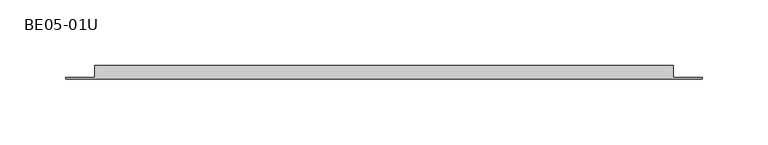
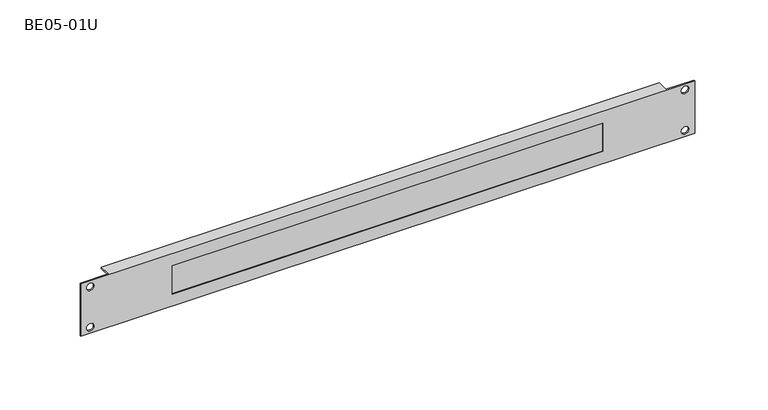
"""IFC4 building model written with IfcOpenShell, lengths in millimetres: proxy geometry, Щеточный ввод : BE05-01U."""

from ifc_helpers import new_model, si_unit, frame, origin, place, context, project, spatial, polyline, circle_curve, outline, extrude, source, transform, mapped, element, save
from ifc_brep_helpers import plane_surface, revolved_surface, advanced_brep


def be05_01u_52b54abc(model_context):
    return source(origin(), model_context, "Body", "SolidModel", [
        extrude(outline(polyline([(169.25, 3.9727258), (169.25, 0.0), (-169.25, 0.0), (-169.25, 3.9727258), (169.25, 3.9727258)])), frame((0.0, 0.0, 1.0), z_axis=(0.0, 0.0, 1.0), x_axis=(1.0, 0.0, 0.0)), (0.0, 0.0, 1.0), 32.6),
        advanced_brep(
        [(-241.25, 0.0, 43.6), (-241.25, -1.0, 43.6), (241.25, -1.0, 43.6), (241.25, 0.0, 43.6), (219.25, 0.0, 43.6), (219.25, 9.0, 43.6), (-219.25, 9.0, 43.6), (-219.25, 0.0, 43.6), (241.25, 0.0, 0.0), (241.25, -1.0, 0.0), (-241.25, -1.0, 0.0), (-241.25, 0.0, 0.0), (-219.25, 0.0, 0.0), (-219.25, 9.0, 0.0), (219.25, 9.0, 0.0), (219.25, 0.0, 0.0), (219.25, 0.0, 1.0), (-219.25, 0.0, 1.0), (-219.25, 0.0, 42.6), (219.25, 0.0, 42.6), (-230.8081342, 0.0, 38.6), (-236.7427021, 0.0, 38.6), (-230.8081342, 0.0, 5.0), (-236.7427021, 0.0, 5.0), (236.7427021, 0.0, 38.6), (230.8081342, 0.0, 38.6), (236.7427021, 0.0, 5.0), (230.8081342, 0.0, 5.0), (169.25, 0.0, 10.0), (169.25, 0.0, 33.6), (-169.25, 0.0, 33.6), (-169.25, 0.0, 10.0), (-236.7427021, -1.0, 38.6), (-230.8081342, -1.0, 38.6), (-236.7427021, -1.0, 5.0), (-230.8081342, -1.0, 5.0), (230.8081342, -1.0, 38.6), (236.7427021, -1.0, 38.6), (230.8081342, -1.0, 5.0), (236.7427021, -1.0, 5.0), (169.25, -1.0, 33.6), (169.25, -1.0, 10.0), (-169.25, -1.0, 10.0), (-169.25, -1.0, 33.6), (219.25, 9.0, 42.6), (219.25, 9.0, 8.0), (219.25, 8.0, 8.0), (219.25, 8.0, 1.0), (-219.25, 9.0, 42.6), (-219.25, 8.0, 1.0), (-219.25, 8.0, 8.0), (-219.25, 9.0, 8.0)],
        [
            (0, 1),
            (1, 2),
            (2, 3),
            (3, 4),
            (4, 5),
            (5, 6),
            (6, 7),
            (7, 0),
            (8, 9),
            (9, 10),
            (10, 11),
            (11, 12),
            (12, 13),
            (13, 14),
            (14, 15),
            (15, 8),
            (3, 8),
            (15, 16),
            (16, 17),
            (17, 12),
            (11, 0),
            (7, 18),
            (18, 19),
            (19, 4),
            (20, 21, circle_curve(frame((-233.7754182, 0.0, 38.6), z_axis=(0.0, -1.0, 0.0), x_axis=(-1.0, 0.0, 0.0)), 2.967284)),
            (21, 20, circle_curve(frame((-233.7754182, 0.0, 38.6), z_axis=(0.0, -1.0, 0.0), x_axis=(-1.0, 0.0, 0.0)), 2.967284)),
            (22, 23, circle_curve(frame((-233.7754182, 0.0, 5.0), z_axis=(0.0, -1.0, 0.0), x_axis=(-1.0, 0.0, 0.0)), 2.967284)),
            (23, 22, circle_curve(frame((-233.7754182, 0.0, 5.0), z_axis=(0.0, -1.0, 0.0), x_axis=(-1.0, 0.0, 0.0)), 2.967284)),
            (24, 25, circle_curve(frame((233.7754182, 0.0, 38.6), z_axis=(0.0, -1.0, 0.0), x_axis=(-1.0, 0.0, 0.0)), 2.967284)),
            (25, 24, circle_curve(frame((233.7754182, 0.0, 38.6), z_axis=(0.0, -1.0, 0.0), x_axis=(-1.0, 0.0, 0.0)), 2.967284)),
            (26, 27, circle_curve(frame((233.7754182, 0.0, 5.0), z_axis=(0.0, -1.0, 0.0), x_axis=(-1.0, 0.0, 0.0)), 2.967284)),
            (27, 26, circle_curve(frame((233.7754182, 0.0, 5.0), z_axis=(0.0, -1.0, 0.0), x_axis=(-1.0, 0.0, 0.0)), 2.967284)),
            (28, 29),
            (29, 30),
            (30, 31),
            (31, 28),
            (10, 1),
            (9, 2),
            (32, 33, circle_curve(frame((-233.7754182, -1.0, 38.6), z_axis=(0.0, 1.0, 0.0), x_axis=(-1.0, 0.0, 0.0)), 2.967284)),
            (33, 32, circle_curve(frame((-233.7754182, -1.0, 38.6), z_axis=(0.0, 1.0, 0.0), x_axis=(-1.0, 0.0, 0.0)), 2.967284)),
            (34, 35, circle_curve(frame((-233.7754182, -1.0, 5.0), z_axis=(0.0, 1.0, 0.0), x_axis=(-1.0, 0.0, 0.0)), 2.967284)),
            (35, 34, circle_curve(frame((-233.7754182, -1.0, 5.0), z_axis=(0.0, 1.0, 0.0), x_axis=(-1.0, 0.0, 0.0)), 2.967284)),
            (36, 37, circle_curve(frame((233.7754182, -1.0, 38.6), z_axis=(0.0, 1.0, 0.0), x_axis=(-1.0, 0.0, 0.0)), 2.967284)),
            (37, 36, circle_curve(frame((233.7754182, -1.0, 38.6), z_axis=(0.0, 1.0, 0.0), x_axis=(-1.0, 0.0, 0.0)), 2.967284)),
            (38, 39, circle_curve(frame((233.7754182, -1.0, 5.0), z_axis=(0.0, 1.0, 0.0), x_axis=(-1.0, 0.0, 0.0)), 2.967284)),
            (39, 38, circle_curve(frame((233.7754182, -1.0, 5.0), z_axis=(0.0, 1.0, 0.0), x_axis=(-1.0, 0.0, 0.0)), 2.967284)),
            (40, 41),
            (41, 42),
            (42, 43),
            (43, 40),
            (32, 21),
            (20, 33),
            (34, 23),
            (22, 35),
            (36, 25),
            (24, 37),
            (38, 27),
            (26, 39),
            (19, 44),
            (44, 5),
            (14, 45),
            (45, 46),
            (46, 47),
            (47, 16),
            (6, 48),
            (48, 18),
            (17, 49),
            (49, 50),
            (50, 51),
            (51, 13),
            (48, 44),
            (47, 49),
            (51, 45),
            (50, 46),
            (28, 41),
            (40, 29),
            (31, 42),
            (30, 43),
        ],
        [
            plane_surface(frame((-241.25, 0.0, 43.6), z_axis=(0.0, 0.0, 1.0), x_axis=(-1.0, 0.0, 0.0))),
            plane_surface(frame((-241.25, 0.0, 0.0), z_axis=(0.0, 0.0, -1.0), x_axis=(1.0, 0.0, 0.0))),
            plane_surface(frame((241.25, 0.0, 43.6), z_axis=(0.0, 1.0, 0.0), x_axis=(0.0, 0.0, -1.0))),
            plane_surface(frame((-241.25, 0.0, 43.6), z_axis=(-1.0, 0.0, 0.0), x_axis=(0.0, 0.0, -1.0))),
            plane_surface(frame((-241.25, -1.0, 43.6), z_axis=(0.0, -1.0, 0.0), x_axis=(0.0, 0.0, -1.0))),
            plane_surface(frame((241.25, -1.0, 43.6), z_axis=(1.0, 0.0, 0.0), x_axis=(0.0, 0.0, -1.0))),
            revolved_surface(polyline([(-236.7427022, -1.0, 38.6), (-236.7427022, 0.0, 38.6)]), (-233.7754182, 0.0, 38.6), (0.0, -1.0, 0.0)),
            revolved_surface(polyline([(-236.7427022, -1.0, 5.0), (-236.7427022, 0.0, 5.0)]), (-233.7754182, -1.0, 5.0), (0.0, -1.0, 0.0)),
            revolved_surface(polyline([(230.80813419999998, -1.0, 38.6), (230.80813419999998, 0.0, 38.6)]), (233.7754182, -1.0, 38.6), (0.0, -1.0, 0.0)),
            revolved_surface(polyline([(230.80813419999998, -1.0, 5.0), (230.80813419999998, 0.0, 5.0)]), (233.7754182, -1.0, 5.0), (0.0, -1.0, 0.0)),
            plane_surface(frame((219.25, 0.0, 43.6), z_axis=(1.0, 0.0, 0.0), x_axis=(0.0, 0.0, -1.0))),
            plane_surface(frame((-219.25, 0.0, 43.6), z_axis=(-1.0, 0.0, 0.0), x_axis=(0.0, 0.0, 1.0))),
            plane_surface(frame((219.25, 0.0, 42.6), z_axis=(0.0, 0.0, -1.0), x_axis=(-1.0, 0.0, 0.0))),
            plane_surface(frame((219.25, 8.0, 1.0), z_axis=(0.0, 0.0, 1.0), x_axis=(-1.0, 0.0, 0.0))),
            plane_surface(frame((219.25, 9.0, 42.6), z_axis=(0.0, 1.0, 0.0), x_axis=(-1.0, 0.0, 0.0))),
            plane_surface(frame((219.25, 9.0, 0.0), z_axis=(0.0, 1.0, 0.0), x_axis=(-1.0, 0.0, 0.0))),
            plane_surface(frame((219.25, 9.0, 8.0), z_axis=(0.0, 0.0, 1.0), x_axis=(-1.0, 0.0, 0.0))),
            plane_surface(frame((219.25, 8.0, 8.0), z_axis=(0.0, -1.0, 0.0), x_axis=(-1.0, 0.0, 0.0))),
            plane_surface(frame((169.25, 0.0, 33.6), z_axis=(-1.0, 0.0, 0.0), x_axis=(0.0, -1.0, 0.0))),
            plane_surface(frame((169.25, 0.0, 10.0), z_axis=(0.0, 0.0, 1.0), x_axis=(0.0, -1.0, 0.0))),
            plane_surface(frame((-169.25, 0.0, 10.0), z_axis=(1.0, 0.0, 0.0), x_axis=(0.0, -1.0, 0.0))),
            plane_surface(frame((-169.25, 0.0, 33.6), z_axis=(0.0, 0.0, -1.0), x_axis=(0.0, -1.0, 0.0))),
        ],
        [
            (0, [[1, 2, 3, 4, 5, 6, 7, 8]]),
            (1, [[9, 10, 11, 12, 13, 14, 15, 16]]),
            (2, [[17, -16, 18, 19, 20, -12, 21, -8, 22, 23, 24, -4], [25, 26], [27, 28], [29, 30], [31, 32], [33, 34, 35, 36]]),
            (3, [[-1, -21, -11, 37]]),
            (4, [[-2, -37, -10, 38], [39, 40], [41, 42], [43, 44], [45, 46], [47, 48, 49, 50]]),
            (5, [[-3, -38, -9, -17]]),
            (6, [[51, -25, 52, -39]]),
            (6, [[-51, -40, -52, -26]]),
            (7, [[53, -27, 54, -41]]),
            (7, [[-53, -42, -54, -28]]),
            (8, [[55, -29, 56, -43]]),
            (8, [[-55, -44, -56, -30]]),
            (9, [[57, -31, 58, -45]]),
            (9, [[-57, -46, -58, -32]]),
            (10, [[59, 60, -5, -24]]),
            (10, [[61, 62, 63, 64, -18, -15]]),
            (11, [[-7, 65, 66, -22]]),
            (11, [[-13, -20, 67, 68, 69, 70]]),
            (12, [[-59, -23, -66, 71]]),
            (13, [[-64, 72, -67, -19]]),
            (14, [[-60, -71, -65, -6]]),
            (15, [[-61, -14, -70, 73]]),
            (16, [[-62, -73, -69, 74]]),
            (17, [[-63, -74, -68, -72]]),
            (18, [[75, -47, 76, -33]]),
            (19, [[-75, -36, 77, -48]]),
            (20, [[-77, -35, 78, -49]]),
            (21, [[-76, -50, -78, -34]]),
        ],
    ),
    ])


if __name__ == "__main__":
    model = new_model("IFC4")
    model_context = context("Model", 3, world=origin())
    ifc_project = project(units=[si_unit("LENGTHUNIT", "METRE", prefix="MILLI")], contexts=[model_context])
    site = spatial("IfcSite", under=ifc_project)
    building = spatial("IfcBuilding", under=site)
    placement = place(None, origin())
    be05_01u_shape = be05_01u_52b54abc(model_context)
    element("IfcBuildingElementProxy", 1, Name="Щеточный ввод : BE05-01U", ObjectType="Щеточный ввод : BE05-01U", at=placement, inside=building, context=model_context, shape_type="MappedRepresentation", body=[
        mapped(be05_01u_shape, transform((0.0, 0.0, 0.0), x_axis=(1.0, 0.0, 0.0), y_axis=(0.0, 1.0, 0.0), z_axis=(0.0, 0.0, 1.0))),
    ])
    save(model, "model.ifc")
